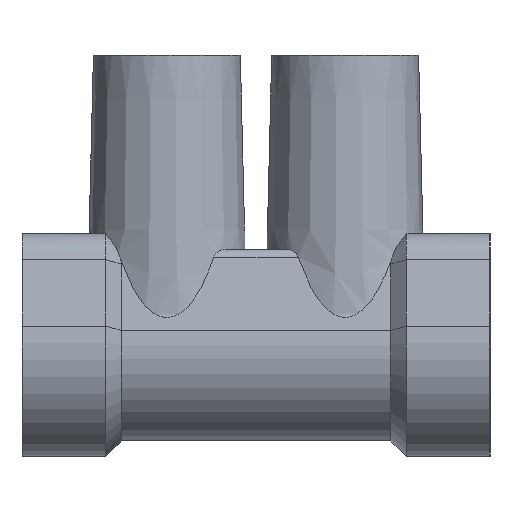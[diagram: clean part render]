
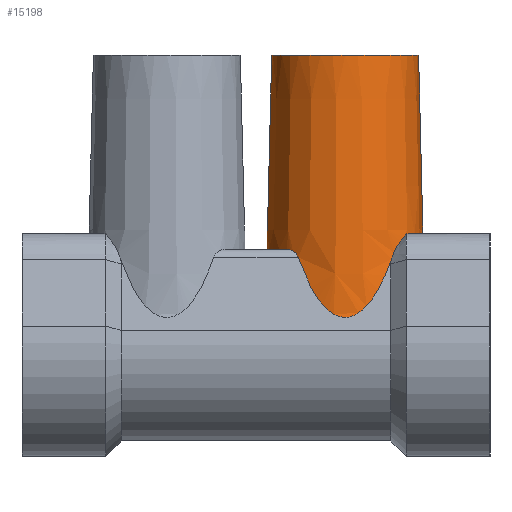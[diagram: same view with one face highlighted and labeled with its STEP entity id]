
A CAD part, left-side view. The second image highlights one B-rep face of the part: STEP entity #15198.
In plain terms, the highlighted conical face has half-angle 1.4 degrees and reference radius 3.3 mm.
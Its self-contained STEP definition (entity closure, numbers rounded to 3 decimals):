
#326=CONICAL_SURFACE('',#16767,3.3,0.024);
#903=CIRCLE('',#16696,3.525);
#910=CIRCLE('',#16714,3.3);
#934=CIRCLE('',#16768,3.513);
#935=CIRCLE('',#16770,3.496);
#1167=B_SPLINE_CURVE_WITH_KNOTS('',3,(#26063,#26064,#26065,#26066),
 .UNSPECIFIED.,.F.,.F.,(4,4),(0.003,0.005),
 .UNSPECIFIED.);
#1169=B_SPLINE_CURVE_WITH_KNOTS('',3,(#26112,#26113,#26114,#26115,#26116),
 .UNSPECIFIED.,.F.,.F.,(4,1,4),(0.,0.,
0.001),.UNSPECIFIED.);
#1172=B_SPLINE_CURVE_WITH_KNOTS('',3,(#26144,#26145,#26146,#26147),
 .UNSPECIFIED.,.F.,.F.,(4,4),(0.,0.),.UNSPECIFIED.);
#1173=B_SPLINE_CURVE_WITH_KNOTS('',3,(#26169,#26170,#26171,#26172,#26173),
 .UNSPECIFIED.,.F.,.F.,(4,1,4),(0.,0.,0.001),
 .UNSPECIFIED.);
#1176=B_SPLINE_CURVE_WITH_KNOTS('',3,(#26316,#26317,#26318,#26319),
 .UNSPECIFIED.,.F.,.F.,(4,4),(0.,0.002),
 .UNSPECIFIED.);
#1177=B_SPLINE_CURVE_WITH_KNOTS('',3,(#26328,#26329,#26330,#26331),
 .UNSPECIFIED.,.F.,.F.,(4,4),(0.,0.002),
 .UNSPECIFIED.);
#1178=B_SPLINE_CURVE_WITH_KNOTS('',3,(#26334,#26335,#26336,#26337),
 .UNSPECIFIED.,.F.,.F.,(4,4),(0.,0.),.UNSPECIFIED.);
#1272=ELLIPSE('',#16702,12.105,3.29);
#1273=ELLIPSE('',#16764,12.105,3.29);
#1274=ELLIPSE('',#16769,12.105,3.29);
#5501=ORIENTED_EDGE('',*,*,#7720,.T.);
#5502=ORIENTED_EDGE('',*,*,#7788,.T.);
#5503=ORIENTED_EDGE('',*,*,#7684,.T.);
#5504=ORIENTED_EDGE('',*,*,#7697,.F.);
#5505=ORIENTED_EDGE('',*,*,#7705,.T.);
#5506=ORIENTED_EDGE('',*,*,#7706,.T.);
#5507=ORIENTED_EDGE('',*,*,#7794,.T.);
#5508=ORIENTED_EDGE('',*,*,#7725,.T.);
#5509=ORIENTED_EDGE('',*,*,#7795,.F.);
#5510=ORIENTED_EDGE('',*,*,#7796,.T.);
#5511=ORIENTED_EDGE('',*,*,#7716,.T.);
#5512=ORIENTED_EDGE('',*,*,#7797,.F.);
#5513=ORIENTED_EDGE('',*,*,#7798,.T.);
#5514=ORIENTED_EDGE('',*,*,#7791,.T.);
#7684=EDGE_CURVE('',#9180,#9179,#1167,.T.);
#7697=EDGE_CURVE('',#9187,#9179,#903,.T.);
#7705=EDGE_CURVE('',#9187,#9192,#1272,.F.);
#7706=EDGE_CURVE('',#9192,#9193,#1169,.T.);
#7716=EDGE_CURVE('',#9198,#9201,#1172,.T.);
#7720=EDGE_CURVE('',#9205,#9205,#910,.T.);
#7725=EDGE_CURVE('',#9210,#9211,#1173,.T.);
#7788=EDGE_CURVE('',#9253,#9180,#1273,.F.);
#7791=EDGE_CURVE('',#9255,#9253,#1176,.F.);
#7794=EDGE_CURVE('',#9193,#9210,#934,.F.);
#7795=EDGE_CURVE('',#9257,#9211,#1274,.F.);
#7796=EDGE_CURVE('',#9257,#9198,#1177,.T.);
#7797=EDGE_CURVE('',#9258,#9201,#935,.T.);
#7798=EDGE_CURVE('',#9258,#9255,#1178,.T.);
#9179=VERTEX_POINT('',#26062);
#9180=VERTEX_POINT('',#26067);
#9187=VERTEX_POINT('',#26090);
#9192=VERTEX_POINT('',#26109);
#9193=VERTEX_POINT('',#26117);
#9198=VERTEX_POINT('',#26137);
#9201=VERTEX_POINT('',#26143);
#9205=VERTEX_POINT('',#26157);
#9210=VERTEX_POINT('',#26174);
#9211=VERTEX_POINT('',#26175);
#9253=VERTEX_POINT('',#26308);
#9255=VERTEX_POINT('',#26320);
#9257=VERTEX_POINT('',#26327);
#9258=VERTEX_POINT('',#26333);
#12759=EDGE_LOOP('',(#5501));
#12760=EDGE_LOOP('',(#5502,#5503,#5504,#5505,#5506,#5507,#5508,#5509,#5510,
#5511,#5512,#5513,#5514));
#13777=FACE_BOUND('',#12759,.T.);
#13778=FACE_BOUND('',#12760,.T.);
#15198=ADVANCED_FACE('',(#13777,#13778),#326,.T.);
#16696=AXIS2_PLACEMENT_3D('',#26091,#20891,#20892);
#16702=AXIS2_PLACEMENT_3D('',#26110,#20907,#20908);
#16714=AXIS2_PLACEMENT_3D('',#26156,#20935,#20936);
#16764=AXIS2_PLACEMENT_3D('',#26307,#21078,#21079);
#16767=AXIS2_PLACEMENT_3D('',#26324,#21086,#21087);
#16768=AXIS2_PLACEMENT_3D('',#26325,#21088,#21089);
#16769=AXIS2_PLACEMENT_3D('',#26326,#21090,#21091);
#16770=AXIS2_PLACEMENT_3D('',#26332,#21092,#21093);
#20891=DIRECTION('',(0.,0.,-1.));
#20892=DIRECTION('',(-1.,0.,0.));
#20907=DIRECTION('',(-0.962,0.,-0.273));
#20908=DIRECTION('',(0.273,0.,-0.962));
#20935=DIRECTION('',(0.,0.,-1.));
#20936=DIRECTION('',(-1.,0.,0.));
#21078=DIRECTION('',(-0.962,0.,-0.273));
#21079=DIRECTION('',(0.273,0.,-0.962));
#21086=DIRECTION('',(0.,0.,-1.));
#21087=DIRECTION('',(1.,0.,0.));
#21088=DIRECTION('',(0.,0.,-1.));
#21089=DIRECTION('',(-1.,0.,0.));
#21090=DIRECTION('',(-0.962,0.,0.273));
#21091=DIRECTION('',(-0.273,0.,-0.962));
#21092=DIRECTION('',(0.,0.,-1.));
#21093=DIRECTION('',(-1.,0.,0.));
#26062=CARTESIAN_POINT('',(-128.567,7.3,3.8));
#26063=CARTESIAN_POINT('',(-128.512,7.3,1.594));
#26064=CARTESIAN_POINT('',(-128.53,7.3,2.33));
#26065=CARTESIAN_POINT('',(-128.549,7.3,3.065));
#26066=CARTESIAN_POINT('',(-128.567,7.3,3.8));
#26067=CARTESIAN_POINT('',(-128.512,7.3,1.594));
#26090=CARTESIAN_POINT('',(-129.137,8.557,3.8));
#26091=CARTESIAN_POINT('',(-132.,6.5,3.8));
#26109=CARTESIAN_POINT('',(-129.176,8.604,3.936));
#26110=CARTESIAN_POINT('',(-131.715,6.5,12.891));
#26112=CARTESIAN_POINT('',(-129.176,8.604,3.936));
#26113=CARTESIAN_POINT('',(-129.213,8.648,4.065));
#26114=CARTESIAN_POINT('',(-129.36,8.831,4.238));
#26115=CARTESIAN_POINT('',(-129.553,9.024,4.3));
#26116=CARTESIAN_POINT('',(-129.657,9.117,4.3));
#26117=CARTESIAN_POINT('',(-129.657,9.117,4.3));
#26137=CARTESIAN_POINT('',(-134.158,3.75,4.996));
#26143=CARTESIAN_POINT('',(-134.041,3.662,5.));
#26144=CARTESIAN_POINT('',(-134.158,3.75,4.996));
#26145=CARTESIAN_POINT('',(-134.119,3.72,4.999));
#26146=CARTESIAN_POINT('',(-134.08,3.691,5.));
#26147=CARTESIAN_POINT('',(-134.041,3.662,5.));
#26156=CARTESIAN_POINT('',(-132.,6.5,13.));
#26157=CARTESIAN_POINT('',(-135.3,6.5,13.));
#26169=CARTESIAN_POINT('',(-134.343,9.117,4.3));
#26170=CARTESIAN_POINT('',(-134.447,9.024,4.3));
#26171=CARTESIAN_POINT('',(-134.639,8.832,4.239));
#26172=CARTESIAN_POINT('',(-134.787,8.648,4.065));
#26173=CARTESIAN_POINT('',(-134.824,8.604,3.936));
#26174=CARTESIAN_POINT('',(-134.343,9.117,4.3));
#26175=CARTESIAN_POINT('',(-134.824,8.604,3.936));
#26307=CARTESIAN_POINT('',(-131.715,6.5,12.891));
#26308=CARTESIAN_POINT('',(-129.153,4.424,3.856));
#26316=CARTESIAN_POINT('',(-129.153,4.424,3.856));
#26317=CARTESIAN_POINT('',(-129.267,4.288,4.332));
#26318=CARTESIAN_POINT('',(-129.508,4.004,4.717));
#26319=CARTESIAN_POINT('',(-129.842,3.75,4.996));
#26320=CARTESIAN_POINT('',(-129.842,3.75,4.996));
#26324=CARTESIAN_POINT('',(-132.,6.5,13.));
#26325=CARTESIAN_POINT('',(-132.,6.5,4.3));
#26326=CARTESIAN_POINT('',(-132.285,6.5,12.891));
#26327=CARTESIAN_POINT('',(-134.847,4.424,3.856));
#26328=CARTESIAN_POINT('',(-134.847,4.424,3.856));
#26329=CARTESIAN_POINT('',(-134.733,4.287,4.335));
#26330=CARTESIAN_POINT('',(-134.495,4.005,4.715));
#26331=CARTESIAN_POINT('',(-134.158,3.75,4.996));
#26332=CARTESIAN_POINT('',(-132.,6.5,5.));
#26333=CARTESIAN_POINT('',(-129.959,3.662,5.));
#26334=CARTESIAN_POINT('',(-129.959,3.662,5.));
#26335=CARTESIAN_POINT('',(-129.92,3.691,5.));
#26336=CARTESIAN_POINT('',(-129.881,3.72,4.999));
#26337=CARTESIAN_POINT('',(-129.842,3.75,4.996));
